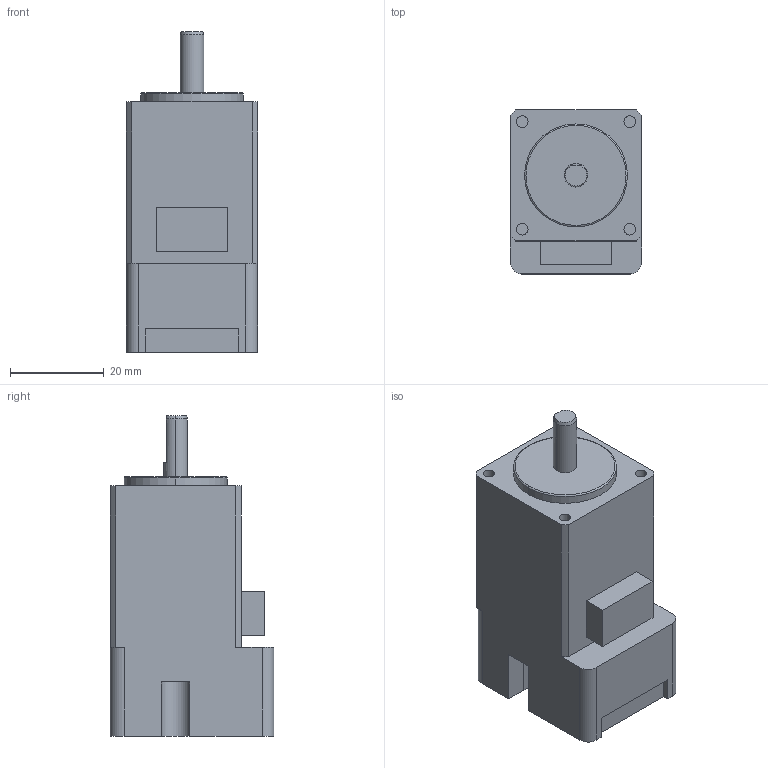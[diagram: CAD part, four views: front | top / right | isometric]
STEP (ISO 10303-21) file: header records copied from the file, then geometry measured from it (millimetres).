
FILE_DESCRIPTION (( 'STEP AP203' ), '1' );
FILE_NAME ('P-PMSB-U28DA1E-NL_3D.STEP', '2020-02-04T01:23:39', ( '' ), ( '' ), 'SwSTEP 2.0', 'SolidWorks 2018', '' );
FILE_SCHEMA (( 'CONFIG_CONTROL_DESIGN' ));
Length unit declared in the file: millimetre
Products named in the file (1): P-PMSB-U28DA1E-NL_3D
Bounding box: 28 x 35 x 68.5 mm (x, y, z)
Volume: 45990.2 mm3; surface area: 9806.7 mm2
Topology: 2 solids, 2 shells, 62 faces, 152 edges, 100 vertices
Faces by surface type: plane 34, cylinder 23, cone 3, torus 2
Entity records: 1916 total; most frequent: DIRECTION 331, CARTESIAN_POINT 321, ORIENTED_EDGE 304, EDGE_CURVE 152, AXIS2_PLACEMENT_3D 118, VERTEX_POINT 100, VECTOR 95, LINE 95
